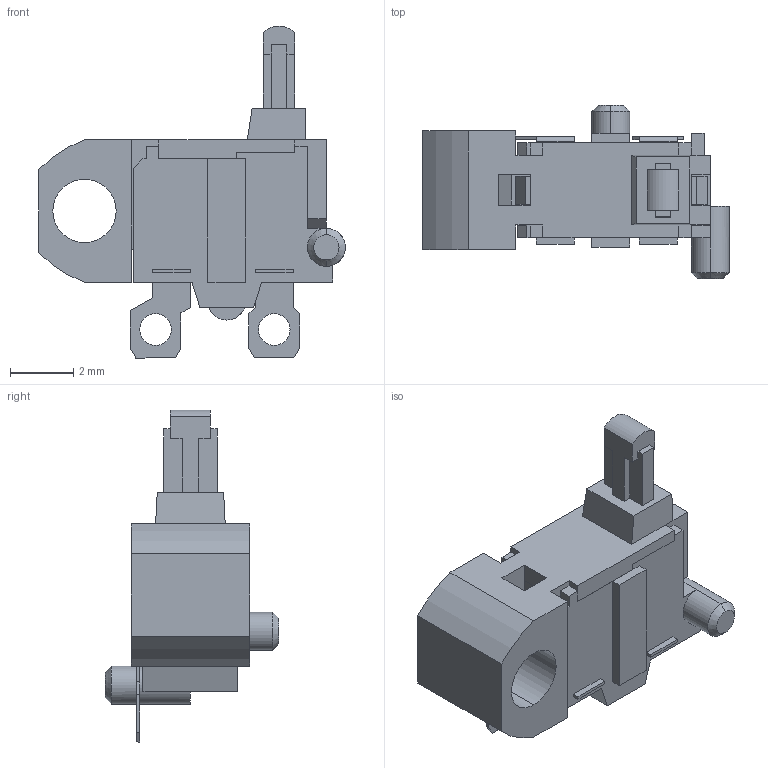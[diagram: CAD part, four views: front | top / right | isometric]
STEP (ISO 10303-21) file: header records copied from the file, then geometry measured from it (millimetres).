
FILE_DESCRIPTION (( 'STEP AP214' ), '1' );
FILE_NAME ('SPPB120200.STEP', '2011-08-29T06:29:25', ( ' ' ), ( '' ), 'SwSTEP 2.0', 'SolidWorks 2010', '' );
FILE_SCHEMA (( 'AUTOMOTIVE_DESIGN' ));
Length unit declared in the file: millimetre
Products named in the file (1): SPPB120200
Bounding box: 9.7 x 5.5 x 10.5 mm (x, y, z)
Volume: 127.6 mm3; surface area: 327.4 mm2
Topology: 2 solids, 2 shells, 220 faces, 604 edges, 390 vertices
Faces by surface type: plane 201, cylinder 15, cone 4
Entity records: 7566 total; most frequent: CARTESIAN_POINT 1215, ORIENTED_EDGE 1208, DIRECTION 1083, EDGE_CURVE 604, LINE 567, VECTOR 567, VERTEX_POINT 390, AXIS2_PLACEMENT_3D 258
